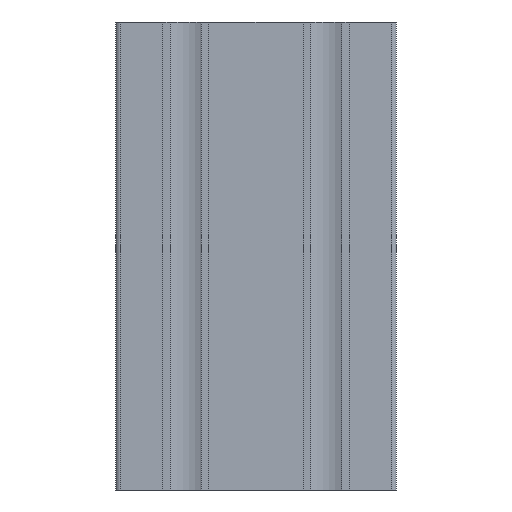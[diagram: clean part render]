
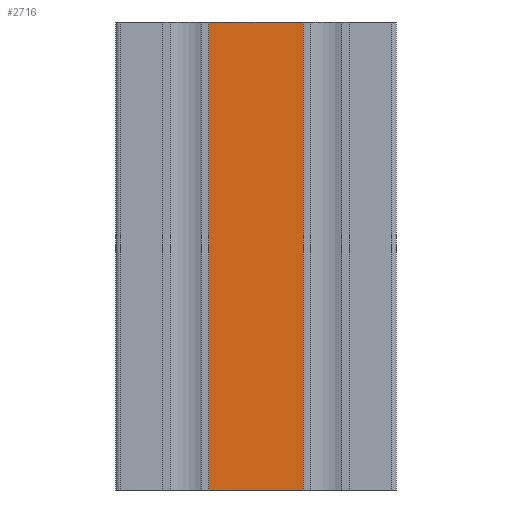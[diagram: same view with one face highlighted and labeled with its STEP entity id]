
A CAD part, front view. The second image highlights one B-rep face of the part: STEP entity #2716.
In plain terms, the highlighted planar face has unit normal (0, -1, 0).
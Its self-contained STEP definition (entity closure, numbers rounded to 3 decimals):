
#113=PLANE('',#2930);
#246=FACE_OUTER_BOUND('',#384,.T.);
#384=EDGE_LOOP('',(#2241,#2242,#2243,#2244));
#688=LINE('',#4402,#1000);
#689=LINE('',#4405,#1001);
#690=LINE('',#4407,#1002);
#691=LINE('',#4408,#1003);
#1000=VECTOR('',#3618,100.);
#1001=VECTOR('',#3621,20.2);
#1002=VECTOR('',#3622,20.2);
#1003=VECTOR('',#3623,100.);
#1355=VERTEX_POINT('',#4398);
#1356=VERTEX_POINT('',#4400);
#1357=VERTEX_POINT('',#4404);
#1358=VERTEX_POINT('',#4406);
#1734=EDGE_CURVE('',#1355,#1356,#688,.T.);
#1735=EDGE_CURVE('',#1357,#1355,#689,.T.);
#1736=EDGE_CURVE('',#1358,#1356,#690,.T.);
#1737=EDGE_CURVE('',#1357,#1358,#691,.T.);
#2241=ORIENTED_EDGE('',*,*,#1735,.T.);
#2242=ORIENTED_EDGE('',*,*,#1734,.T.);
#2243=ORIENTED_EDGE('',*,*,#1736,.F.);
#2244=ORIENTED_EDGE('',*,*,#1737,.F.);
#2716=ADVANCED_FACE('',(#246),#113,.T.);
#2930=AXIS2_PLACEMENT_3D('',#4403,#3619,#3620);
#3618=DIRECTION('',(0.,0.,1.));
#3619=DIRECTION('center_axis',(0.,-1.,0.));
#3620=DIRECTION('ref_axis',(1.,0.,0.));
#3621=DIRECTION('',(1.,0.,0.));
#3622=DIRECTION('',(1.,0.,0.));
#3623=DIRECTION('',(0.,0.,1.));
#4398=CARTESIAN_POINT('',(11.642,-15.996,0.));
#4400=CARTESIAN_POINT('',(11.642,-15.996,100.));
#4402=CARTESIAN_POINT('',(11.642,-15.996,0.));
#4403=CARTESIAN_POINT('Origin',(-8.558,-15.996,0.));
#4404=CARTESIAN_POINT('',(-8.558,-15.996,0.));
#4405=CARTESIAN_POINT('',(-8.558,-15.996,0.));
#4406=CARTESIAN_POINT('',(-8.558,-15.996,100.));
#4407=CARTESIAN_POINT('',(-8.558,-15.996,100.));
#4408=CARTESIAN_POINT('',(-8.558,-15.996,0.));
